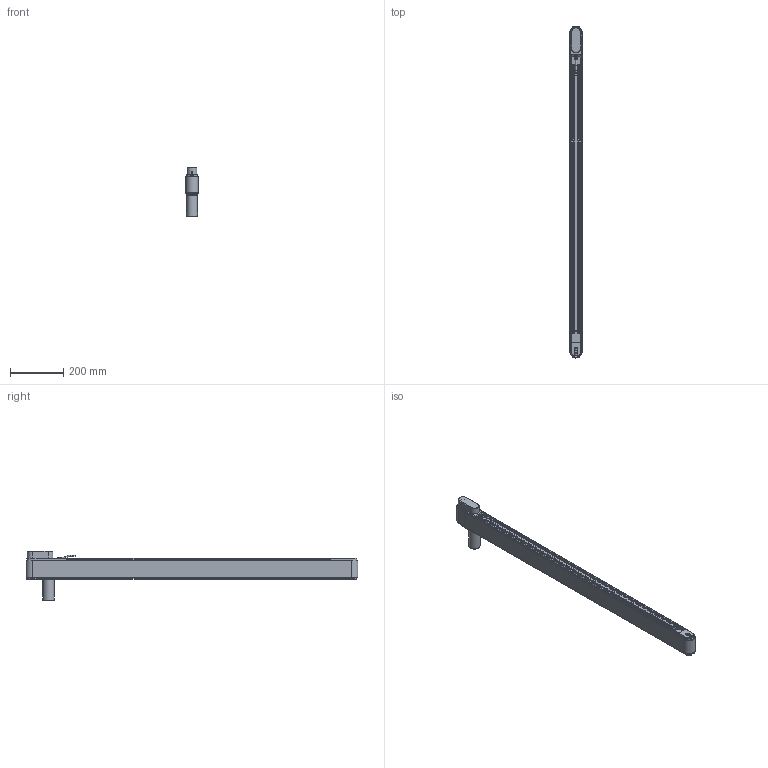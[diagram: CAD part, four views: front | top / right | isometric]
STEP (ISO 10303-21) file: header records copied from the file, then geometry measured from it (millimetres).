
FILE_DESCRIPTION(/* description */ (''),/* implementation_level */ '2;1');
FILE_NAME(/* name */ 'G:\DATEN\CAD\Förderband\Marketing\3D-Modelle (Standard)\FR-40-80-Q\FR-40-80-Q-1200-K (Motorendrohr 80 mm).stp',/* time_stamp */ '2019-05-08T14:23:15+02:00',/* author */ ('melanie.ochs'),/* organization */ (''),/* preprocessor_version */ 'ST-DEVELOPER v17',/* originating_system */ 'Autodesk Inventor 2019',/* authorisation */ '');
FILE_SCHEMA (('CONFIG_CONTROL_DESIGN'));
Length unit declared in the file: centimetre
Products named in the file (1): FR-40-80-Q-1200-K (Motorendrohr 80 mm)
Bounding box: 46.6 x 1246.6 x 185 mm (x, y, z)
Volume: 1920357.1 mm3; surface area: 1249831.3 mm2
Topology: 31 solids, 32 shells, 893 faces, 2430 edges, 1654 vertices
Faces by surface type: plane 444, cylinder 283, cone 74, bspline 61, torus 31
Full cylindrical faces by diameter (mm): 2 x2, 4 x6, 4.3 x4, 4.65 x1, 4.917 x2, 5 x11, 5.5 x8, 6 x2, 6.5 x1, 6.773 x1, 6.917 x2, 8 x7, 8.3 x20, 8.5 x8, 8.773 x1, 10 x1, 11 x1, 12 x3, 25 x2, 28 x4, 42 x2, 44 x2
Entity records: 30069 total; most frequent: CARTESIAN_POINT 6297, ORIENTED_EDGE 4824, DIRECTION 4705, EDGE_CURVE 2412, AXIS2_PLACEMENT_3D 1714, VERTEX_POINT 1654, LINE 1277, VECTOR 1277
